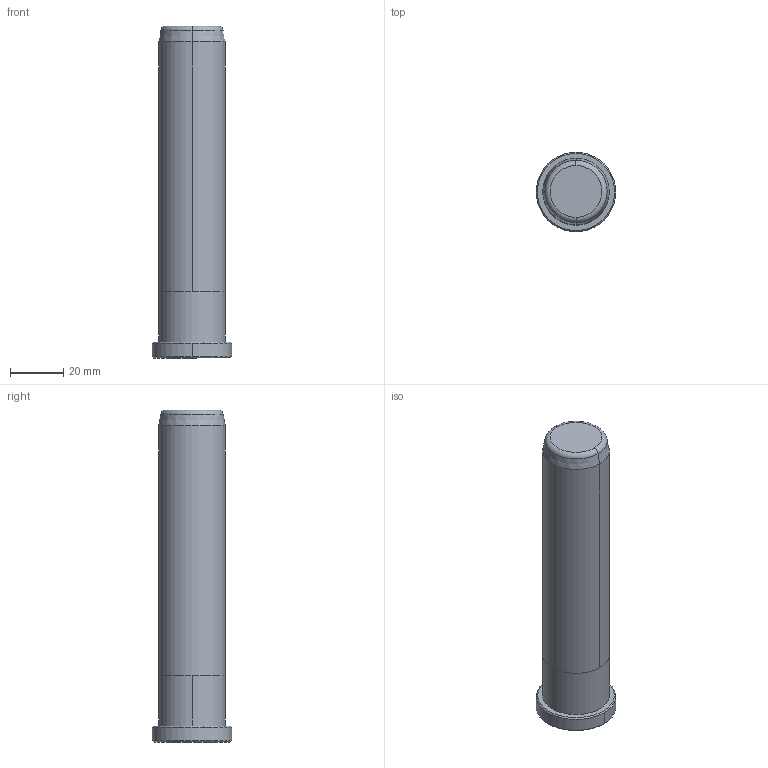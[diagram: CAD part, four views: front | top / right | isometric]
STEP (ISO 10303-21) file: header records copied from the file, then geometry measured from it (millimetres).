
FILE_DESCRIPTION((''),'2;1');
FILE_NAME('B80825125','2018-01-06T',('MANU'),(''),'PRO/ENGINEER BY PARAMETRIC TECHNOLOGY CORPORATION, 2012130','PRO/ENGINEER BY PARAMETRIC TECHNOLOGY CORPORATION, 2012130','');
FILE_SCHEMA(('CONFIG_CONTROL_DESIGN'));
Length unit declared in the file: millimetre
Products named in the file (1): B80825125
Bounding box: 30 x 30 x 125 mm (x, y, z)
Volume: 62365.1 mm3; surface area: 11136.3 mm2
Topology: 1 solids, 1 shells, 18 faces, 34 edges, 20 vertices
Faces by surface type: cone 6, cylinder 6, plane 4, torus 2
Entity records: 494 total; most frequent: DIRECTION 92, CARTESIAN_POINT 72, ORIENTED_EDGE 68, AXIS2_PLACEMENT_3D 40, EDGE_CURVE 34, CIRCLE 22, VERTEX_POINT 20, EDGE_LOOP 20
